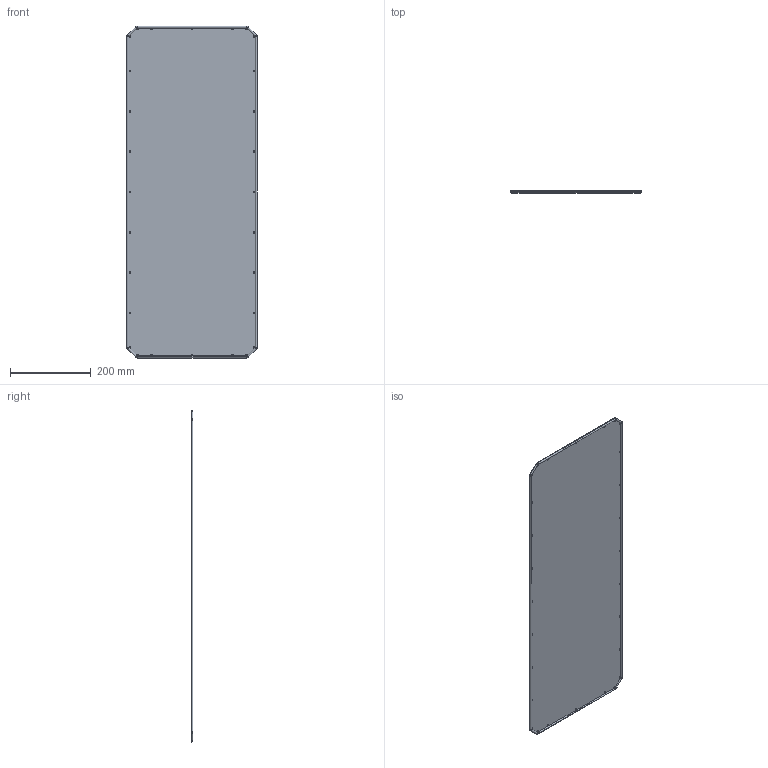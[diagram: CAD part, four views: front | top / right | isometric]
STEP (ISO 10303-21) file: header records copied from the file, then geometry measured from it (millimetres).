
FILE_DESCRIPTION (( 'STEP AP214' ), '1' );
FILE_NAME ('PK 100.50 GP ÑÁ Ïàíåëü êàáåëüíîãî ââîäà ãëóõàÿ.STEP', '2023-11-27T14:27:39', ( '' ), ( '' ), 'SwSTEP 2.0', 'SolidWorks 2022', '' );
FILE_SCHEMA (( 'AUTOMOTIVE_DESIGN' ));
Length unit declared in the file: millimetre
Products named in the file (3): PK 100.50 GP СБ Панель кабельного ввода глухая; PK 60.40 GP 00.002 Уплотнение полиуретановое_PK 100.50 GP ППУ Внешний контур; PK 60.40 GP 00.001 Панель кабельного ввода глухая_PK 100.50 GP 00.001 Панель кабельного ввода глухая
Assembly tree (2 placements, depth 2):
  PK 100.50 GP СБ Панель кабельного ввода глухая
    PK 60.40 GP 00.001 Панель кабельного ввода глухая_PK 100.50 GP 00.001 Панель кабельного ввода глухая
    PK 60.40 GP 00.002 Уплотнение полиуретановое_PK 100.50 GP ППУ Внешний контур
Bounding box: 324 x 4.3 x 824 mm (x, y, z)
Volume: 499594.1 mm3; surface area: 564123.4 mm2
Topology: 2 solids, 2 shells, 84 faces, 243 edges, 162 vertices
Faces by surface type: cylinder 65, plane 11, torus 8
Entity records: 3079 total; most frequent: DIRECTION 567, CARTESIAN_POINT 494, ORIENTED_EDGE 486, EDGE_CURVE 243, AXIS2_PLACEMENT_3D 235, VERTEX_POINT 162, CIRCLE 146, EDGE_LOOP 141
